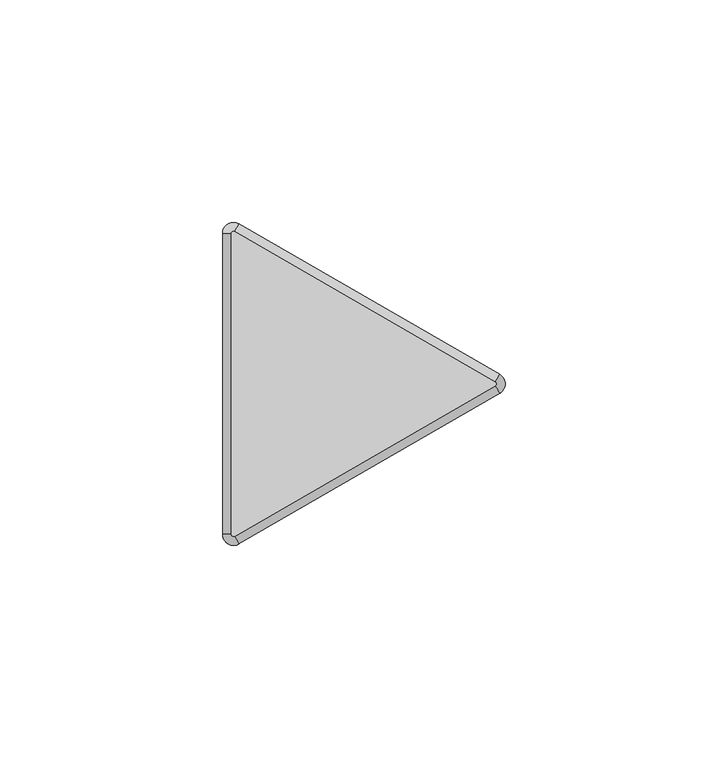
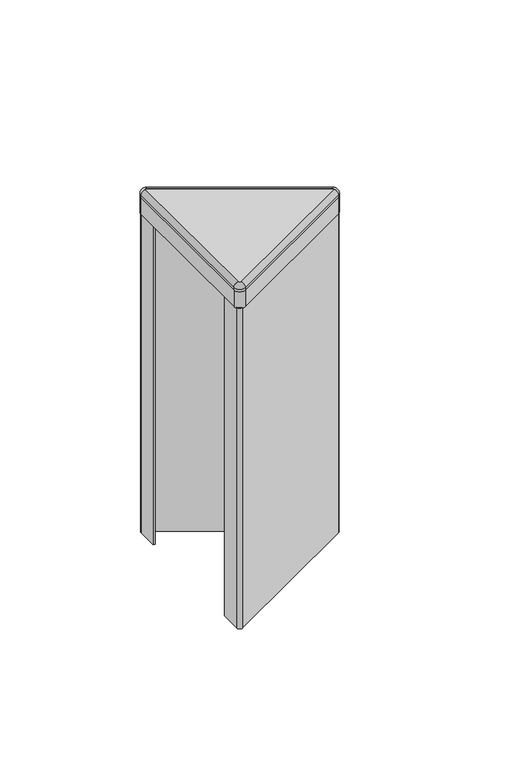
"""IFC4 building model written with IfcOpenShell, lengths in millimetres: furniture geometry, Steelcase - Answer Solution - Panel - 120deg Change-of-Height Trim - Thin : Y Corner - 6H for 36H App."""

from ifc_helpers import new_model, si_unit, point, frame, frame_2d, origin, place, context, project, spatial, polyline, circle_curve, ellipse_curve, trimmed, segment, composite_curve, outline, extrude, source, transform, mapped, element, save
from ifc_brep_helpers import plane_surface, cylinder_surface, revolved_surface, advanced_brep


def furniture_3c85586d(model_context):
    return source(origin(), model_context, "Body", "SolidModel", [
        advanced_brep(
        [(-10.518645, -37.3335529, 918.8628978), (-14.2052101, -35.2051135, 918.8628978), (-14.2052101, -35.2051135, 917.9164663), (-10.518645, -37.3335529, 917.9164663), (-11.46175, -35.7000471, 920.75), (-12.319, -35.2051135, 920.75), (-11.46175, -35.7000471, 917.9164663), (-12.319, -35.2051135, 917.9164663), (48.0429908, -3.5229767, 917.9164663), (48.0429908, -3.5229767, 918.8628978), (47.0998858, -1.8894709, 920.75), (47.0998858, -1.8894709, 917.9164663), (48.0429908, 0.733902, 918.8628978), (48.0429908, 0.733902, 917.9164663), (47.0998858, -0.8996038, 920.75), (47.0998858, -0.8996038, 917.9164663), (-10.518645, 34.5444782, 917.9164663), (-14.2052101, 32.4160388, 917.9164663), (-11.46175, 32.9109723, 917.9164663), (-12.319, 32.4160388, 917.9164663), (-10.518645, 34.5444782, 918.8628978), (-11.46175, 32.9109723, 920.75), (-14.2052101, 32.4160388, 918.8628978), (-12.319, 32.4160388, 920.75)],
        [
            (0, 1, circle_curve(frame((-11.7475, -35.2051135, 918.8628978), z_axis=(0.0, 0.0, -1.0), x_axis=(-1.0, 0.0, 0.0)), 2.4577101)),
            (1, 2),
            (2, 3, circle_curve(frame((-11.7475, -35.2051135, 917.9164663), z_axis=(0.0, 0.0, 1.0), x_axis=(-1.0, 0.0, 0.0)), 2.4577101)),
            (3, 0),
            (4, 5, circle_curve(frame((-11.7475, -35.2051135, 920.75), z_axis=(0.0, 0.0, -1.0), x_axis=(-1.0, 0.0, 0.0)), 0.5715)),
            (5, 1, circle_curve(frame((-12.3181076, -35.2051135, 918.8628978), z_axis=(0.0, -1.0, 0.0), x_axis=(1.0, 0.0, 0.0)), 1.8871024)),
            (0, 4, circle_curve(frame((-11.4621962, -35.6992743, 918.8628978), z_axis=(-0.8660254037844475, -0.49999999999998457, 0.0), x_axis=(-0.49999999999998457, 0.8660254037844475, 0.0)), 1.8871024)),
            (6, 7, circle_curve(frame((-11.7475, -35.2051135, 917.9164663), z_axis=(0.0, 0.0, -1.0), x_axis=(-1.0, 0.0, 0.0)), 0.5715)),
            (7, 5),
            (4, 6),
            (3, 8),
            (8, 9),
            (9, 0),
            (9, 10, circle_curve(frame((47.0994396, -1.8886981, 918.8628978), z_axis=(-0.8660254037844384, -0.5000000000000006, 0.0), x_axis=(-0.5000000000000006, 0.8660254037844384, 0.0)), 1.8871024)),
            (10, 4),
            (10, 11),
            (11, 6),
            (12, 9, circle_curve(frame((46.8141358, -1.3945374, 918.8628978), z_axis=(0.0, 0.0, -1.0), x_axis=(0.4999999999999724, -0.8660254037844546, 0.0)), 2.4577101)),
            (8, 13, circle_curve(frame((46.8141358, -1.3945374, 917.9164663), z_axis=(0.0, 0.0, 1.0), x_axis=(0.4999999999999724, -0.8660254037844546, 0.0)), 2.4577101)),
            (13, 12),
            (14, 10, circle_curve(frame((46.8141358, -1.3945374, 920.75), z_axis=(0.0, 0.0, -1.0), x_axis=(0.4999999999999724, -0.8660254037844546, 0.0)), 0.5715)),
            (12, 14, circle_curve(frame((47.0994396, -0.9003766, 918.8628978), z_axis=(0.8660254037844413, -0.4999999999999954, 0.0), x_axis=(-0.4999999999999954, -0.8660254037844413, 0.0)), 1.8871024)),
            (15, 11, circle_curve(frame((46.8141358, -1.3945374, 917.9164663), z_axis=(0.0, 0.0, -1.0), x_axis=(0.4999999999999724, -0.8660254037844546, 0.0)), 0.5715)),
            (14, 15),
            (16, 13),
            (2, 17),
            (17, 16, circle_curve(frame((-11.7475, 32.4160388, 917.9164663), z_axis=(0.0, 0.0, -1.0), x_axis=(0.500000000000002, 0.8660254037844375, 0.0)), 2.4577101)),
            (15, 18),
            (18, 19, circle_curve(frame((-11.7475, 32.4160388, 917.9164663), z_axis=(0.0, 0.0, 1.0), x_axis=(0.500000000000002, 0.8660254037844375, 0.0)), 0.5715)),
            (19, 7),
            (16, 20),
            (20, 12),
            (20, 21, circle_curve(frame((-11.4621962, 32.9101995, 918.8628978), z_axis=(0.8660254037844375, -0.5000000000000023, 0.0), x_axis=(-0.5000000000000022, -0.8660254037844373, 0.0)), 1.8871024)),
            (21, 14),
            (21, 18),
            (22, 20, circle_curve(frame((-11.7475, 32.4160388, 918.8628978), z_axis=(0.0, 0.0, -1.0), x_axis=(0.500000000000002, 0.8660254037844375, 0.0)), 2.4577101)),
            (17, 22),
            (23, 21, circle_curve(frame((-11.7475, 32.4160388, 920.75), z_axis=(0.0, 0.0, -1.0), x_axis=(0.500000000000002, 0.8660254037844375, 0.0)), 0.5715)),
            (22, 23, circle_curve(frame((-12.3181076, 32.4160388, 918.8628978), z_axis=(0.0, 1.0, 0.0), x_axis=(1.0, 0.0, 0.0)), 1.8871024)),
            (23, 19),
            (1, 22),
            (5, 23),
        ],
        [
            cylinder_surface(frame((-11.7475, -35.2051135, 0.0), z_axis=(0.0, 0.0, 1.0), x_axis=(-1.0, 0.0, 0.0)), 2.4577101),
            revolved_surface(trimmed(ellipse_curve(frame((-12.3181076, -35.2051135, 918.8628978), z_axis=(0.0, 1.0, 0.0), x_axis=(1.0, 0.0, 0.0)), 1.8871024, 1.8871024), [point((-14.2052101, -35.2051135, 918.8628978))], [point((-12.319, -35.2051135, 920.75))], True, "CARTESIAN"), (-11.7475, -35.2051135, 0.0), (0.0, 0.0, 1.0)),
            revolved_surface(polyline([(-12.319, -35.2051135, 920.75), (-12.319, -35.2051135, 917.9164663)]), (-11.7475, -35.2051135, 0.0), (0.0, 0.0, 1.0)),
            plane_surface(frame((-10.518645, -37.3335529, 917.9164663), z_axis=(0.500000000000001, -0.8660254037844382, 0.0), x_axis=(0.8660254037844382, 0.500000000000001, 0.0))),
            cylinder_surface(frame((-11.4621962, -35.6992743, 918.8628978), z_axis=(-0.8660254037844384, -0.5000000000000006, 0.0), x_axis=(-0.5000000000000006, 0.8660254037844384, 0.0)), 1.8871024),
            plane_surface(frame((-11.46175, -35.7000471, 920.75), z_axis=(-0.500000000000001, 0.8660254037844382, 0.0), x_axis=(0.8660254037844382, 0.500000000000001, 0.0))),
            cylinder_surface(frame((46.8141358, -1.3945374, 0.0), z_axis=(0.0, 0.0, 1.0), x_axis=(0.4999999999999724, -0.8660254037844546, 0.0)), 2.4577101),
            revolved_surface(trimmed(ellipse_curve(frame((47.0994396, -1.8886981, 918.8628978), z_axis=(-0.8660254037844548, -0.499999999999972, 0.0), x_axis=(-0.499999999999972, 0.8660254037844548, 0.0)), 1.8871024, 1.8871024), [point((48.0429908, -3.5229767, 918.8628978))], [point((47.0998858, -1.8894709, 920.75))], True, "CARTESIAN"), (46.8141358, -1.3945374, 0.0), (0.0, 0.0, 1.0)),
            revolved_surface(polyline([(47.09988579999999, -1.8894709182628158, 920.75), (47.09988579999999, -1.8894709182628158, 917.9164663)]), (46.8141358, -1.3945374, 0.0), (0.0, 0.0, 1.0)),
            plane_surface(frame((47.0998858, -0.8996038, 917.9164663), z_axis=(0.0, 0.0, -1.0000000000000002), x_axis=(-0.8660254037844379, 0.5000000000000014, 0.0))),
            plane_surface(frame((48.0429908, 0.733902, 917.9164663), z_axis=(0.5000000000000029, 0.866025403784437, 0.0), x_axis=(-0.866025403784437, 0.5000000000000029, 0.0))),
            cylinder_surface(frame((47.0994396, -0.9003766, 918.8628978), z_axis=(0.8660254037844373, -0.5000000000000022, 0.0), x_axis=(-0.5000000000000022, -0.8660254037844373, 0.0)), 1.8871024),
            plane_surface(frame((47.0998858, -0.8996038, 920.75), z_axis=(-0.5000000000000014, -0.8660254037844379, 0.0), x_axis=(-0.8660254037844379, 0.5000000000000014, 0.0))),
            cylinder_surface(frame((-11.7475, 32.4160388, 0.0), z_axis=(0.0, 0.0, 1.0), x_axis=(0.500000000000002, 0.8660254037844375, 0.0)), 2.4577101),
            revolved_surface(trimmed(ellipse_curve(frame((-11.4621962, 32.9101995, 918.8628978), z_axis=(0.866025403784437, -0.5000000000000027, 0.0), x_axis=(-0.5000000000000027, -0.866025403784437, 0.0)), 1.8871024, 1.8871024), [point((-10.518645, 34.5444782, 918.8628978))], [point((-11.46175, 32.9109723, 920.75))], True, "CARTESIAN"), (-11.7475, 32.4160388, 0.0), (0.0, 0.0, 1.0)),
            revolved_surface(polyline([(-11.461749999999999, 32.91097231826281, 920.75), (-11.461749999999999, 32.91097231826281, 917.9164663)]), (-11.7475, 32.4160388, 0.0), (0.0, 0.0, 1.0)),
            plane_surface(frame((-14.2052101, 32.4160388, 917.9164663), z_axis=(-1.0, 0.0, 0.0), x_axis=(0.0, -1.0, 0.0))),
            cylinder_surface(frame((-12.3181076, 32.4160388, 918.8628978), z_axis=(0.0, 1.0, 0.0), x_axis=(1.0, 0.0, 0.0)), 1.8871024),
            plane_surface(frame((-12.319, 32.4160388, 920.75), z_axis=(1.0, 0.0, 0.0), x_axis=(0.0, -1.0, 0.0))),
        ],
        [
            (0, [[1, 2, 3, 4]]),
            (1, [[5, 6, -1, 7]]),
            (2, [[8, 9, -5, 10]]),
            (3, [[-4, 11, 12, 13]]),
            (4, [[-7, -13, 14, 15]]),
            (5, [[-10, -15, 16, 17]]),
            (6, [[18, -12, 19, 20]]),
            (7, [[21, -14, -18, 22]]),
            (8, [[23, -16, -21, 24]]),
            (9, [[25, -19, -11, -3, 26, 27], [-8, -17, -23, 28, 29, 30]]),
            (10, [[-20, -25, 31, 32]]),
            (11, [[-22, -32, 33, 34]]),
            (12, [[-24, -34, 35, -28]]),
            (13, [[36, -31, -27, 37]]),
            (14, [[38, -33, -36, 39]]),
            (15, [[-29, -35, -38, 40]]),
            (16, [[-37, -26, -2, 41]]),
            (17, [[-39, -41, -6, 42]]),
            (18, [[-40, -42, -9, -30]]),
        ],
    ),
        extrude(outline(composite_curve([segment(trimmed(circle_curve(frame_2d((47.9522001, -1.3945374)), 1.2978651), [point((48.6011327, -0.2705532))], [point((48.6011327, -2.5185215))], False, "CARTESIAN"), True, "CONTINUOUS"), segment(polyline([(48.6011327, -2.5185215), (-11.6879343, -37.3264306)]), True, "CONTINUOUS"), segment(trimmed(circle_curve(frame_2d((-12.3300896, -36.2141852)), 1.2843104), [point((-11.6879343, -37.3264306))], [point((-13.6144, -36.2141852))], False, "CARTESIAN"), True, "CONTINUOUS"), segment(polyline([(-13.6144, -36.2141852), (-13.6144, -27.3303775), (-12.7, -27.3303775), (-12.7, -36.8548888), (48.7191304, -1.3945374), (-12.7, 34.0658141), (-12.7, 24.5413027), (-13.6144, 24.5413027), (-13.6144, 33.4106259)]), True, "CONTINUOUS"), segment(trimmed(circle_curve(frame_2d((-12.3217269, 33.4106259)), 1.2926731), [point((-13.6144, 33.4106259))], [point((-11.6753904, 34.5301136))], False, "CARTESIAN"), True, "CONTINUOUS"), segment(polyline([(-11.6753904, 34.5301136), (48.6011327, -0.2705532)]), True, "CONTINUOUS")], self_intersect=False)), frame((0.0, 0.0, 768.35), z_axis=(0.0, 0.0, 1.0), x_axis=(1.0, 0.0, 0.0)), (0.0, 0.0, 1.0), 142.24),
        extrude(outline(composite_curve([segment(trimmed(circle_curve(frame_2d((46.8261011, -1.3945374)), 0.5655173), [point((47.1088598, -0.904785))], [point((47.1088598, -1.8842897))], False, "CARTESIAN"), True, "CONTINUOUS"), segment(polyline([(47.1088598, -1.8842897), (-11.4505119, -35.6935587)]), True, "CONTINUOUS"), segment(trimmed(circle_curve(frame_2d((-11.7400079, -35.1921369)), 0.5789921), [point((-11.4505119, -35.6935587))], [point((-12.319, -35.1921369))], False, "CARTESIAN"), True, "CONTINUOUS"), segment(polyline([(-12.319, -35.1921369), (-12.319, 32.3985888)]), True, "CONTINUOUS"), segment(trimmed(circle_curve(frame_2d((-11.7374252, 32.3985888)), 0.5815748), [point((-12.319, 32.3985888))], [point((-11.4466378, 32.9022473))], False, "CARTESIAN"), True, "CONTINUOUS"), segment(polyline([(-11.4466378, 32.9022473), (47.1088598, -0.904785)]), True, "CONTINUOUS")], self_intersect=False)), frame((0.0, 0.0, 917.9164663), z_axis=(0.0, 0.0, 1.0), x_axis=(1.0, 0.0, 0.0)), (0.0, 0.0, 1.0), 2.8335337),
        extrude(outline(composite_curve([segment(trimmed(circle_curve(frame_2d((46.8140443, -1.3945374)), 2.4577558), [point((48.0429222, 0.7339416))], [point((48.0429222, -3.5230163))], False, "CARTESIAN"), True, "CONTINUOUS"), segment(polyline([(48.0429222, -3.5230163), (-10.518058, -37.333214)]), True, "CONTINUOUS"), segment(trimmed(circle_curve(frame_2d((-11.7471087, -35.2044357)), 2.4581014), [point((-10.518058, -37.333214))], [point((-14.2052101, -35.2044357))], False, "CARTESIAN"), True, "CONTINUOUS"), segment(polyline([(-14.2052101, -35.2044357), (-14.2052101, 32.4160388)]), True, "CONTINUOUS"), segment(trimmed(circle_curve(frame_2d((-11.7475, 32.4160388)), 2.4577101), [point((-14.2052101, 32.4160388))], [point((-10.518645, 34.5444782))], False, "CARTESIAN"), True, "CONTINUOUS"), segment(polyline([(-10.518645, 34.5444782), (48.0429222, 0.7339416)]), True, "CONTINUOUS")], self_intersect=False)), frame((0.0, 0.0, 910.59), z_axis=(0.0, 0.0, 1.0), x_axis=(1.0, 0.0, 0.0)), (0.0, 0.0, 1.0), 7.3264663),
    ])


if __name__ == "__main__":
    model = new_model("IFC4")
    model_context = context("Model", 3, world=origin())
    ifc_project = project(units=[si_unit("LENGTHUNIT", "METRE", prefix="MILLI")], contexts=[model_context])
    site = spatial("IfcSite", under=ifc_project)
    building = spatial("IfcBuilding", under=site)
    placement = place(None, origin())
    furniture_shape = furniture_3c85586d(model_context)
    element("IfcFurniture", 1, ObjectType="Steelcase - Answer Solution - Panel - 120deg Change-of-Height Trim - Thin : Y Corner - 6H for 36H App", at=placement, inside=building, context=model_context, shape_type="MappedRepresentation", body=[
        mapped(furniture_shape, transform((0.0, 0.0, 0.0), x_axis=(1.0, 0.0, 0.0), y_axis=(0.0, 1.0, 0.0), z_axis=(0.0, 0.0, 1.0))),
    ])
    save(model, "model.ifc")
